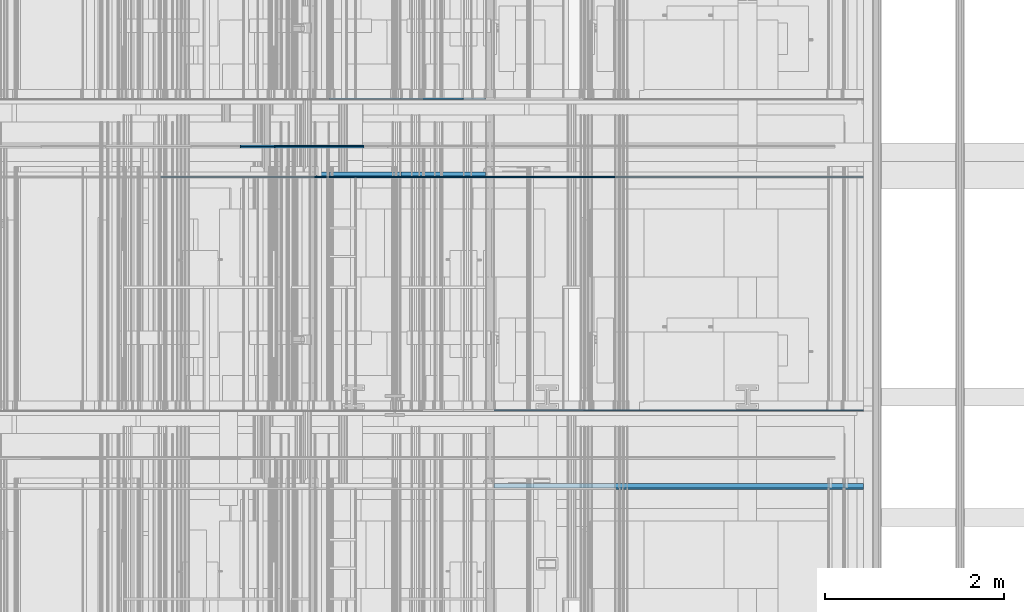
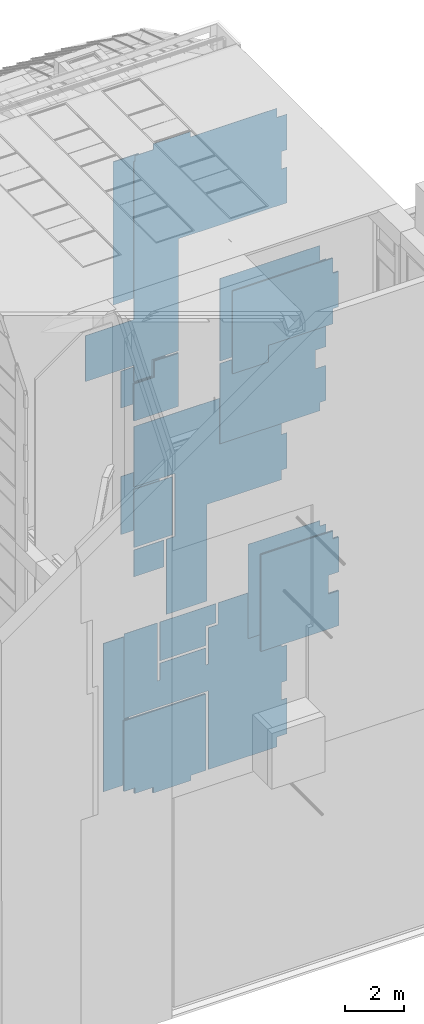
# One storey, part 256 of 583: 22 slabs.
"""IFC2X3 building model written with IfcOpenShell, lengths in metres."""

from ifc_helpers import new_model, entity, si_unit, converted_unit, derived_unit, money_unit, direction, frame, origin_with_axes, place, context, subcontext, project, spatial, faceted_brep, material, type_object, element, save


model = new_model("IFC2X3")

# Units and contexts
model_context = context("Model", 3, precision=1e-05, world=origin_with_axes(), true_north=direction((0.0, 1.0)))
body_context = subcontext(model_context, "Body", "Model", "MODEL_VIEW", scale=1.0)
ifc_project = project(units=[si_unit("LENGTHUNIT", "METRE"), si_unit("AREAUNIT", "SQUARE_METRE"), si_unit("VOLUMEUNIT", "CUBIC_METRE"), si_unit("ABSORBEDDOSEUNIT", "GRAY"), si_unit("AMOUNTOFSUBSTANCEUNIT", "MOLE"), si_unit("DOSEEQUIVALENTUNIT", "SIEVERT"), si_unit("ELECTRICCAPACITANCEUNIT", "FARAD"), si_unit("ELECTRICCHARGEUNIT", "COULOMB"), si_unit("ELECTRICCONDUCTANCEUNIT", "SIEMENS"), si_unit("ELECTRICCURRENTUNIT", "AMPERE"), si_unit("ELECTRICRESISTANCEUNIT", "OHM"), si_unit("ELECTRICVOLTAGEUNIT", "VOLT"), si_unit("ENERGYUNIT", "JOULE"), si_unit("FORCEUNIT", "NEWTON"), si_unit("FREQUENCYUNIT", "HERTZ"), si_unit("ILLUMINANCEUNIT", "LUX"), si_unit("INDUCTANCEUNIT", "HENRY"), si_unit("LUMINOUSFLUXUNIT", "LUMEN"), si_unit("LUMINOUSINTENSITYUNIT", "CANDELA"), si_unit("MAGNETICFLUXDENSITYUNIT", "TESLA"), si_unit("MAGNETICFLUXUNIT", "WEBER"), si_unit("MASSUNIT", "GRAM"), converted_unit("PLANEANGLEUNIT", "degree", entity("IfcReal", 0.0174532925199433), si_unit("PLANEANGLEUNIT", "RADIAN"), dimensions=[0, 0, 0, 0, 0, 0, 0]), si_unit("POWERUNIT", "WATT"), si_unit("PRESSUREUNIT", "PASCAL"), si_unit("RADIOACTIVITYUNIT", "BECQUEREL"), si_unit("SOLIDANGLEUNIT", "STERADIAN"), si_unit("THERMODYNAMICTEMPERATUREUNIT", "KELVIN"), si_unit("TIMEUNIT", "SECOND"), derived_unit("ACCELERATIONUNIT", [(si_unit("LENGTHUNIT", "METRE"), 1), (si_unit("TIMEUNIT", "SECOND"), -2)]), derived_unit("ANGULARVELOCITYUNIT", [(converted_unit("PLANEANGLEUNIT", "degree", entity("IfcReal", 0.0174532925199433), si_unit("PLANEANGLEUNIT", "RADIAN"), dimensions=[0, 0, 0, 0, 0, 0, 0]), 1), (si_unit("TIMEUNIT", "SECOND"), -1)]), derived_unit("CURVATUREUNIT", [(converted_unit("PLANEANGLEUNIT", "degree", entity("IfcReal", 0.0174532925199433), si_unit("PLANEANGLEUNIT", "RADIAN"), dimensions=[0, 0, 0, 0, 0, 0, 0]), 1), (si_unit("LENGTHUNIT", "METRE"), -1)]), derived_unit("DYNAMICVISCOSITYUNIT", [(si_unit("PRESSUREUNIT", "PASCAL"), 1), (si_unit("TIMEUNIT", "SECOND"), 1)]), derived_unit("HEATFLUXDENSITYUNIT", [(si_unit("POWERUNIT", "WATT"), 1), (si_unit("LENGTHUNIT", "METRE"), -2)]), derived_unit("HEATINGVALUEUNIT", [(si_unit("ENERGYUNIT", "JOULE"), 1), (si_unit("MASSUNIT", "GRAM"), -1)]), derived_unit("INTEGERCOUNTRATEUNIT", [(si_unit("TIMEUNIT", "SECOND"), -1)]), derived_unit("IONCONCENTRATIONUNIT", [(si_unit("MASSUNIT", "GRAM"), 1), (si_unit("VOLUMEUNIT", "CUBIC_METRE"), -1)]), derived_unit("ISOTHERMALMOISTURECAPACITYUNIT", [(si_unit("VOLUMEUNIT", "CUBIC_METRE"), 1), (si_unit("MASSUNIT", "GRAM"), -1)]), derived_unit("KINEMATICVISCOSITYUNIT", [(si_unit("AREAUNIT", "SQUARE_METRE"), 1), (si_unit("TIMEUNIT", "SECOND"), -1)]), derived_unit("LINEARFORCEUNIT", [(si_unit("FORCEUNIT", "NEWTON"), 1), (si_unit("LENGTHUNIT", "METRE"), -1)]), derived_unit("LINEARMOMENTUNIT", [(si_unit("FORCEUNIT", "NEWTON"), 1), (si_unit("LENGTHUNIT", "METRE"), -1)]), derived_unit("LINEARSTIFFNESSUNIT", [(si_unit("FORCEUNIT", "NEWTON"), 1), (si_unit("LENGTHUNIT", "METRE"), -1)]), derived_unit("LINEARVELOCITYUNIT", [(si_unit("LENGTHUNIT", "METRE"), 1), (si_unit("TIMEUNIT", "SECOND"), -1)]), derived_unit("LUMINOUSINTENSITYDISTRIBUTIONUNIT", [(si_unit("LUMINOUSINTENSITYUNIT", "CANDELA"), 1), (si_unit("LUMINOUSFLUXUNIT", "LUMEN"), -1)]), derived_unit("MASSDENSITYUNIT", [(si_unit("MASSUNIT", "GRAM"), 1), (si_unit("VOLUMEUNIT", "CUBIC_METRE"), -1)]), derived_unit("MASSFLOWRATEUNIT", [(si_unit("MASSUNIT", "GRAM"), 1), (si_unit("TIMEUNIT", "SECOND"), -1)]), derived_unit("MASSPERLENGTHUNIT", [(si_unit("MASSUNIT", "GRAM"), 1), (si_unit("LENGTHUNIT", "METRE"), -1)]), derived_unit("MODULUSOFELASTICITYUNIT", [(si_unit("FORCEUNIT", "NEWTON"), 1), (si_unit("AREAUNIT", "SQUARE_METRE"), -1)]), derived_unit("MODULUSOFLINEARSUBGRADEREACTIONUNIT", [(si_unit("FORCEUNIT", "NEWTON"), 1), (si_unit("LENGTHUNIT", "METRE"), -2)]), derived_unit("MODULUSOFROTATIONALSUBGRADEREACTIONUNIT", [(si_unit("FORCEUNIT", "NEWTON"), 1), (si_unit("LENGTHUNIT", "METRE"), 1)]), derived_unit("MODULUSOFSUBGRADEREACTIONUNIT", [(si_unit("FORCEUNIT", "NEWTON"), 1), (si_unit("VOLUMEUNIT", "CUBIC_METRE"), -1)]), derived_unit("MOISTUREDIFFUSIVITYUNIT", [(si_unit("VOLUMEUNIT", "CUBIC_METRE"), 1), (si_unit("TIMEUNIT", "SECOND"), -1)]), derived_unit("MOLECULARWEIGHTUNIT", [(si_unit("MASSUNIT", "GRAM"), 1), (si_unit("AMOUNTOFSUBSTANCEUNIT", "MOLE"), -1)]), derived_unit("PLANARFORCEUNIT", [(si_unit("FORCEUNIT", "NEWTON"), 1), (si_unit("LENGTHUNIT", "METRE"), -2)]), derived_unit("ROTATIONALFREQUENCYUNIT", [(si_unit("TIMEUNIT", "SECOND"), -1)]), derived_unit("ROTATIONALMASSUNIT", [(si_unit("MASSUNIT", "GRAM"), 1), (si_unit("LENGTHUNIT", "METRE"), 2)]), derived_unit("ROTATIONALSTIFFNESSUNIT", [(si_unit("FORCEUNIT", "NEWTON"), 1), (si_unit("LENGTHUNIT", "METRE"), 1), (converted_unit("PLANEANGLEUNIT", "degree", entity("IfcReal", 0.0174532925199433), si_unit("PLANEANGLEUNIT", "RADIAN"), dimensions=[0, 0, 0, 0, 0, 0, 0]), -1)]), derived_unit("SECTIONAREAINTEGRALUNIT", [(si_unit("LENGTHUNIT", "METRE"), 5)]), derived_unit("SECTIONMODULUSUNIT", [(si_unit("LENGTHUNIT", "METRE"), 3)]), derived_unit("SHEARMODULUSUNIT", [(si_unit("FORCEUNIT", "NEWTON"), 1), (si_unit("AREAUNIT", "SQUARE_METRE"), -1)]), derived_unit("SOUNDPOWERUNIT", [(si_unit("ENERGYUNIT", "JOULE"), 1), (si_unit("TIMEUNIT", "SECOND"), -1)]), derived_unit("SPECIFICHEATCAPACITYUNIT", [(si_unit("FORCEUNIT", "NEWTON"), 1), (si_unit("MASSUNIT", "GRAM"), -1), (si_unit("THERMODYNAMICTEMPERATUREUNIT", "KELVIN"), -1)]), derived_unit("TEMPERATUREGRADIENTUNIT", [(si_unit("THERMODYNAMICTEMPERATUREUNIT", "KELVIN"), 1), (si_unit("LENGTHUNIT", "METRE"), -1)]), derived_unit("THERMALADMITTANCEUNIT", [(si_unit("POWERUNIT", "WATT"), 1), (si_unit("AREAUNIT", "SQUARE_METRE"), -1), (si_unit("THERMODYNAMICTEMPERATUREUNIT", "KELVIN"), -1)]), derived_unit("THERMALCONDUCTANCEUNIT", [(si_unit("POWERUNIT", "WATT"), 1), (si_unit("LENGTHUNIT", "METRE"), -1), (si_unit("THERMODYNAMICTEMPERATUREUNIT", "KELVIN"), -1)]), derived_unit("THERMALEXPANSIONCOEFFICIENTUNIT", [(si_unit("THERMODYNAMICTEMPERATUREUNIT", "KELVIN"), -1)]), derived_unit("THERMALRESISTANCEUNIT", [(si_unit("AREAUNIT", "SQUARE_METRE"), 1), (si_unit("POWERUNIT", "WATT"), -1)]), derived_unit("THERMALTRANSMITTANCEUNIT", [(si_unit("POWERUNIT", "WATT"), 1), (si_unit("AREAUNIT", "SQUARE_METRE"), -1), (si_unit("THERMODYNAMICTEMPERATUREUNIT", "KELVIN"), -1)]), derived_unit("TORQUEUNIT", [(si_unit("FORCEUNIT", "NEWTON"), 1), (si_unit("LENGTHUNIT", "METRE"), 1)]), derived_unit("VAPORPERMEABILITYUNIT", [(si_unit("MASSUNIT", "GRAM"), 1), (si_unit("TIMEUNIT", "SECOND"), -1)]), derived_unit("VOLUMETRICFLOWRATEUNIT", [(si_unit("VOLUMEUNIT", "CUBIC_METRE"), 1), (si_unit("TIMEUNIT", "SECOND"), -1)]), derived_unit("WARPINGCONSTANTUNIT", [(si_unit("LENGTHUNIT", "METRE"), 6)]), derived_unit("WARPINGMOMENTUNIT", [(si_unit("FORCEUNIT", "NEWTON"), 1), (si_unit("LENGTHUNIT", "METRE"), 2)]), money_unit("GBP")], contexts=[model_context])

# Site, building, storey
site_placement = place(None, origin_with_axes())
site = spatial("IfcSite", under=ifc_project, at=site_placement, Name="Site", CompositionType="ELEMENT")
building_placement = place(site_placement, origin_with_axes())
building = spatial("IfcBuilding", under=site, at=building_placement, Name="Building01", CompositionType="ELEMENT")
storey_placement = place(building_placement, frame((0.0, 0.0, 20.78), z_axis=(0.0, 0.0, 1.0), x_axis=(1.0, 0.0, 0.0)))
storey = spatial("IfcBuildingStorey", under=building, at=storey_placement, Name="RL", CompositionType="ELEMENT", Elevation=20.78)

# Slabs
ifc_material_1 = material(Name="A_BSUK_CeilingSoffitFinishes_Suspended")
slab_type_1 = type_object("IfcSlabType", Name="A-FloorsSlabs A_BSUK_Slabs", PredefinedType="FLOOR")
placement = place(storey_placement, frame((0.0, 0.0, -20.78), z_axis=(0.0, 0.0, 1.0), x_axis=(1.0, 0.0, 0.0)))
element("IfcSlab", 1, at=placement, inside=storey, type_object=slab_type_1, material=ifc_material_1, Name="A-FloorsSlabs A_BSUK_Slabs", ObjectType="CompoundSlabLeaf", context=body_context, shape_type="Brep", body=[
    faceted_brep([(12.013124, 7.765, 7.289669), (12.013124, 7.78, 7.289669), (14.582, 7.78, 7.289669), (14.582, 7.765, 7.289669), (11.763124, 7.765, 7.289669), (11.763124, 7.78, 7.289669), (11.763124, 7.765, 11.28), (11.763124, 7.78, 11.28), (14.582, 7.765, 11.28), (14.582, 7.78, 11.28), (14.582, 7.765, 10.955), (14.582, 7.78, 10.955), (14.8, 7.765, 10.955), (14.8, 7.78, 10.955), (14.8, 7.765, 9.508), (14.8, 7.78, 9.508), (14.402, 7.765, 9.508), (14.402, 7.78, 9.508), (14.402, 7.765, 8.742), (14.402, 7.78, 8.742), (14.8, 7.765, 8.742), (14.8, 7.78, 8.742), (14.8, 7.765, 7.295), (14.8, 7.78, 7.295), (14.582, 7.765, 7.295), (14.582, 7.78, 7.295)], [[[0, 1, 2, 3]], [[4, 5, 1, 0]], [[6, 7, 5, 4]], [[8, 9, 7, 6]], [[10, 11, 9, 8]], [[12, 13, 11, 10]], [[14, 15, 13, 12]], [[16, 17, 15, 14]], [[18, 19, 17, 16]], [[20, 21, 19, 18]], [[22, 23, 21, 20]], [[24, 25, 23, 22]], [[3, 2, 25, 24]], [[1, 5, 7, 9, 11, 13, 15, 17, 19, 21, 23, 25, 2]], [[3, 24, 22, 20, 18, 16, 14, 12, 10, 8, 6, 4, 0]]]),
])
ifc_material_2 = material(Name="A_BSUK_Ceramic_FloorTiles")
element("IfcSlab", 2, at=placement, inside=storey, type_object=slab_type_1, material=ifc_material_2, Name="A-FloorsSlabs A_BSUK_Slabs", ObjectType="CompoundSlabLeaf", context=body_context, shape_type="Brep", body=[
    faceted_brep([(10.32, 12.133, 10.488871), (10.32, 12.145, 10.488871), (10.32, 12.145, 12.893585), (10.32, 12.133, 12.893585), (8.82, 12.133, 10.488871), (8.82, 12.145, 10.488871), (8.82, 12.133, 12.893585), (8.82, 12.145, 12.893585)], [[[0, 1, 2, 3]], [[4, 5, 1, 0]], [[6, 7, 5, 4]], [[3, 2, 7, 6]], [[1, 5, 7, 2]], [[3, 6, 4, 0]]]),
])
element("IfcSlab", 3, at=placement, inside=storey, type_object=slab_type_1, material=ifc_material_2, Name="A-FloorsSlabs A_BSUK_Slabs", ObjectType="CompoundSlabLeaf", context=body_context, shape_type="Brep", body=[
    faceted_brep([(8.82, 12.133, 15.708132), (8.82, 12.145, 15.708132), (10.57, 12.145, 15.708132), (10.57, 12.133, 15.708132), (8.82, 12.133, 17.238132), (8.82, 12.145, 17.238132), (9.62, 12.133, 17.238132), (9.62, 12.145, 17.238132), (9.62, 12.133, 17.905), (9.62, 12.145, 17.905), (10.57, 12.133, 17.905), (10.57, 12.145, 17.905)], [[[0, 1, 2, 3]], [[4, 5, 1, 0]], [[6, 7, 5, 4]], [[8, 9, 7, 6]], [[10, 11, 9, 8]], [[3, 2, 11, 10]], [[1, 5, 7, 9, 11, 2]], [[3, 10, 8, 6, 4, 0]]]),
])
ifc_material_3 = material(Name="A_BSUK_Carpet-Pile")
element("IfcSlab", 4, at=placement, inside=storey, type_object=slab_type_1, material=ifc_material_3, Name="A-FloorsSlabs A_BSUK_Slabs", ObjectType="CompoundSlabLeaf", context=body_context, shape_type="Brep", body=[
    faceted_brep([(11.763124, 8.643, 7.289669), (11.763124, 8.655, 7.289669), (14.582, 8.655, 7.289669), (14.582, 8.643, 7.289669), (11.763124, 8.643, 8.995), (11.763124, 8.655, 8.995), (11.763124, 8.643, 11.18), (11.763124, 8.655, 11.18), (14.582, 8.643, 11.18), (14.582, 8.655, 11.18), (14.582, 8.643, 10.955), (14.582, 8.655, 10.955), (14.8, 8.643, 10.955), (14.8, 8.655, 10.955), (14.8, 8.643, 9.508), (14.8, 8.655, 9.508), (14.402, 8.643, 9.508), (14.402, 8.655, 9.508), (14.402, 8.643, 8.742), (14.402, 8.655, 8.742), (14.8, 8.643, 8.742), (14.8, 8.655, 8.742), (14.8, 8.643, 7.295), (14.8, 8.655, 7.295), (14.582, 8.643, 7.295), (14.582, 8.655, 7.295)], [[[0, 1, 2, 3]], [[4, 5, 1, 0]], [[6, 7, 5, 4]], [[8, 9, 7, 6]], [[10, 11, 9, 8]], [[12, 13, 11, 10]], [[14, 15, 13, 12]], [[16, 17, 15, 14]], [[18, 19, 17, 16]], [[20, 21, 19, 18]], [[22, 23, 21, 20]], [[24, 25, 23, 22]], [[3, 2, 25, 24]], [[1, 5, 7, 9, 11, 13, 15, 17, 19, 21, 23, 25, 2]], [[3, 24, 22, 20, 18, 16, 14, 12, 10, 8, 6, 4, 0]]]),
])
element("IfcSlab", 5, at=placement, inside=storey, type_object=slab_type_1, material=ifc_material_3, Name="A-FloorsSlabs A_BSUK_Slabs", ObjectType="CompoundSlabLeaf", context=body_context, shape_type="Brep", body=[
    faceted_brep([(10.665, 8.643, 15.708132), (10.665, 8.655, 15.708132), (14.582, 8.655, 15.708132), (14.582, 8.643, 15.708132), (10.665, 8.643, 19.025284), (10.665, 8.655, 19.025284), (12.159378, 8.643, 19.025284), (12.159378, 8.655, 19.025284), (12.159378, 8.643, 19.715), (12.159378, 8.655, 19.715), (14.8, 8.643, 19.715), (14.8, 8.655, 19.715), (14.8, 8.643, 18.268), (14.8, 8.655, 18.268), (14.402, 8.643, 18.268), (14.402, 8.655, 18.268), (14.402, 8.643, 17.502), (14.402, 8.655, 17.502), (14.8, 8.643, 17.502), (14.8, 8.655, 17.502), (14.8, 8.643, 16.055), (14.8, 8.655, 16.055), (14.582, 8.643, 16.055), (14.582, 8.655, 16.055)], [[[0, 1, 2, 3]], [[4, 5, 1, 0]], [[6, 7, 5, 4]], [[8, 9, 7, 6]], [[10, 11, 9, 8]], [[12, 13, 11, 10]], [[14, 15, 13, 12]], [[16, 17, 15, 14]], [[18, 19, 17, 16]], [[20, 21, 19, 18]], [[22, 23, 21, 20]], [[3, 2, 23, 22]], [[1, 5, 7, 9, 11, 13, 15, 17, 19, 21, 23, 2]], [[3, 22, 20, 18, 16, 14, 12, 10, 8, 6, 4, 0]]]),
])
element("IfcSlab", 6, at=placement, inside=storey, type_object=slab_type_1, material=ifc_material_3, Name="A-FloorsSlabs A_BSUK_Slabs", ObjectType="CompoundSlabLeaf", context=body_context, shape_type="Brep", body=[
    faceted_brep([(12.064378, 8.643, 19.81), (12.064378, 8.655, 19.81), (14.582, 8.655, 19.81), (14.582, 8.643, 19.81), (12.064378, 8.643, 19.120284), (12.064378, 8.655, 19.120284), (10.665, 8.643, 19.120284), (10.665, 8.655, 19.120284), (10.665, 8.643, 22.53), (10.665, 8.655, 22.53), (14.582, 8.643, 22.53), (14.582, 8.655, 22.53), (14.582, 8.643, 21.905), (14.582, 8.655, 21.905), (14.8, 8.643, 21.905), (14.8, 8.655, 21.905), (14.8, 8.643, 20.435), (14.8, 8.655, 20.435), (14.582, 8.643, 20.435), (14.582, 8.655, 20.435)], [[[0, 1, 2, 3]], [[4, 5, 1, 0]], [[6, 7, 5, 4]], [[8, 9, 7, 6]], [[10, 11, 9, 8]], [[12, 13, 11, 10]], [[14, 15, 13, 12]], [[16, 17, 15, 14]], [[18, 19, 17, 16]], [[3, 2, 19, 18]], [[1, 5, 7, 9, 11, 13, 15, 17, 19, 2]], [[3, 18, 16, 14, 12, 10, 8, 6, 4, 0]]]),
])
element("IfcSlab", 7, at=placement, inside=storey, type_object=slab_type_1, material=ifc_material_1, Name="A-FloorsSlabs A_BSUK_Slabs", ObjectType="CompoundSlabLeaf", context=body_context, shape_type="Brep", body=[
    faceted_brep([(9.73567, 11.255, 4.669669), (9.73567, 11.27, 4.669669), (9.73567, 11.27, 7.064669), (9.73567, 11.255, 7.064669), (9.83067, 11.255, 4.669669), (9.83067, 11.27, 4.669669), (9.83067, 11.255, 5.369669), (9.83067, 11.27, 5.369669), (11.63067, 11.255, 5.369669), (11.63067, 11.27, 5.369669), (11.63067, 11.255, 4.669669), (11.63067, 11.27, 4.669669), (11.72567, 11.255, 4.669669), (11.72567, 11.27, 4.669669), (11.72567, 11.255, 6.169669), (11.72567, 11.27, 6.169669), (12.11067, 11.255, 6.169669), (12.11067, 11.27, 6.169669), (12.11067, 11.255, 7.064669), (12.11067, 11.27, 7.064669), (14.567, 11.255, 7.064669), (14.567, 11.27, 7.064669), (14.567, 11.255, 6.559876), (14.567, 11.27, 6.559876), (14.8, 11.255, 6.559876), (14.8, 11.27, 6.559876), (14.8, 11.255, 5.105), (14.8, 11.27, 5.105), (14.582, 11.255, 5.105), (14.582, 11.27, 5.105), (14.582, 11.255, 4.385), (14.582, 11.27, 4.385), (14.8, 11.255, 4.385), (14.8, 11.27, 4.385), (14.8, 11.255, 2.915), (14.8, 11.27, 2.915), (14.582, 11.255, 2.915), (14.582, 11.27, 2.915), (14.582, 11.255, 2.195), (14.582, 11.27, 2.195), (14.8, 11.255, 2.195), (14.8, 11.27, 2.195), (14.8, 11.255, 0.725), (14.8, 11.27, 0.725), (14.402, 11.255, 0.725), (14.402, 11.27, 0.725), (14.402, 11.255, 0.318), (14.402, 11.27, 0.318), (11.72567, 11.255, 0.318), (11.72567, 11.27, 0.318), (11.72567, 11.255, 3.569669), (11.72567, 11.27, 3.569669), (8.43567, 11.255, 3.569669), (8.43567, 11.27, 3.569669), (8.43567, 11.255, 7.064669), (8.43567, 11.27, 7.064669)], [[[0, 1, 2, 3]], [[4, 5, 1, 0]], [[6, 7, 5, 4]], [[8, 9, 7, 6]], [[10, 11, 9, 8]], [[12, 13, 11, 10]], [[14, 15, 13, 12]], [[16, 17, 15, 14]], [[18, 19, 17, 16]], [[20, 21, 19, 18]], [[22, 23, 21, 20]], [[24, 25, 23, 22]], [[26, 27, 25, 24]], [[28, 29, 27, 26]], [[30, 31, 29, 28]], [[32, 33, 31, 30]], [[34, 35, 33, 32]], [[36, 37, 35, 34]], [[38, 39, 37, 36]], [[40, 41, 39, 38]], [[42, 43, 41, 40]], [[44, 45, 43, 42]], [[46, 47, 45, 44]], [[48, 49, 47, 46]], [[50, 51, 49, 48]], [[52, 53, 51, 50]], [[54, 55, 53, 52]], [[3, 2, 55, 54]], [[1, 5, 7, 9, 11, 13, 15, 17, 19, 21, 23, 25, 27, 29, 31, 33, 35, 37, 39, 41, 43, 45, 47, 49, 51, 53, 55, 2]], [[3, 54, 52, 50, 48, 46, 44, 42, 40, 38, 36, 34, 32, 30, 28, 26, 24, 22, 20, 18, 16, 14, 12, 10, 8, 6, 4, 0]]]),
])
element("IfcSlab", 8, at=placement, inside=storey, type_object=slab_type_1, material=ifc_material_1, Name="A-FloorsSlabs A_BSUK_Slabs", ObjectType="CompoundSlabLeaf", context=body_context, shape_type="Brep", body=[
    faceted_brep([(10.53067, 11.255, 5.464669), (10.53067, 11.27, 5.464669), (11.63067, 11.27, 5.464669), (11.63067, 11.255, 5.464669), (9.83067, 11.255, 5.464669), (9.83067, 11.27, 5.464669), (9.83067, 11.255, 7.064669), (9.83067, 11.27, 7.064669), (12.01567, 11.255, 7.064669), (12.01567, 11.27, 7.064669), (12.01567, 11.255, 6.264669), (12.01567, 11.27, 6.264669), (11.63067, 11.255, 6.264669), (11.63067, 11.27, 6.264669)], [[[0, 1, 2, 3]], [[4, 5, 1, 0]], [[6, 7, 5, 4]], [[8, 9, 7, 6]], [[10, 11, 9, 8]], [[12, 13, 11, 10]], [[3, 2, 13, 12]], [[1, 5, 7, 9, 11, 13, 2]], [[3, 12, 10, 8, 6, 4, 0]]]),
])
element("IfcSlab", 9, at=placement, inside=storey, type_object=slab_type_1, material=ifc_material_1, Name="A-FloorsSlabs A_BSUK_Slabs", ObjectType="CompoundSlabLeaf", context=body_context, shape_type="Brep", body=[
    faceted_brep([(10.415, 11.255, 12.988585), (10.415, 11.27, 12.988585), (10.415, 11.27, 10.393871), (10.415, 11.255, 10.393871), (8.82, 11.255, 12.988585), (8.82, 11.27, 12.988585), (8.82, 11.255, 15.483132), (8.82, 11.27, 15.483132), (14.567, 11.255, 15.483132), (14.567, 11.27, 15.483132), (14.567, 11.255, 15.32), (14.567, 11.27, 15.32), (14.8, 11.255, 15.32), (14.8, 11.27, 15.32), (14.8, 11.255, 13.865), (14.8, 11.27, 13.865), (14.582, 11.255, 13.865), (14.582, 11.27, 13.865), (14.582, 11.255, 13.145), (14.582, 11.27, 13.145), (14.8, 11.255, 13.145), (14.8, 11.27, 13.145), (14.8, 11.255, 11.675), (14.8, 11.27, 11.675), (14.582, 11.255, 11.675), (14.582, 11.27, 11.675), (14.582, 11.255, 11.275), (14.582, 11.27, 11.275), (11.668124, 11.255, 11.275), (11.668124, 11.27, 11.275), (11.668124, 11.255, 10.653), (11.668124, 11.27, 10.653), (11.668124, 11.255, 9.642), (11.668124, 11.27, 9.642), (11.668124, 11.255, 7.289669), (11.668124, 11.27, 7.289669), (10.087704, 11.255, 7.289669), (10.087704, 11.27, 7.289669), (10.087704, 11.255, 10.393871), (10.087704, 11.27, 10.393871)], [[[0, 1, 2, 3]], [[4, 5, 1, 0]], [[6, 7, 5, 4]], [[8, 9, 7, 6]], [[10, 11, 9, 8]], [[12, 13, 11, 10]], [[14, 15, 13, 12]], [[16, 17, 15, 14]], [[18, 19, 17, 16]], [[20, 21, 19, 18]], [[22, 23, 21, 20]], [[24, 25, 23, 22]], [[26, 27, 25, 24]], [[28, 29, 27, 26]], [[30, 31, 29, 28]], [[32, 33, 31, 30]], [[34, 35, 33, 32]], [[36, 37, 35, 34]], [[38, 39, 37, 36]], [[3, 2, 39, 38]], [[1, 5, 7, 9, 11, 13, 15, 17, 19, 21, 23, 25, 27, 29, 31, 33, 35, 37, 39, 2]], [[3, 38, 36, 34, 32, 30, 28, 26, 24, 22, 20, 18, 16, 14, 12, 10, 8, 6, 4, 0]]]),
])
element("IfcSlab", 10, at=placement, inside=storey, type_object=slab_type_1, material=ifc_material_1, Name="A-FloorsSlabs A_BSUK_Slabs", ObjectType="CompoundSlabLeaf", context=body_context, shape_type="Brep", body=[
    faceted_brep([(10.32, 11.255, 10.488871), (10.32, 11.27, 10.488871), (10.32, 11.27, 12.893585), (10.32, 11.255, 12.893585), (8.82, 11.255, 10.488871), (8.82, 11.27, 10.488871), (8.82, 11.255, 12.893585), (8.82, 11.27, 12.893585)], [[[0, 1, 2, 3]], [[4, 5, 1, 0]], [[6, 7, 5, 4]], [[3, 2, 7, 6]], [[1, 5, 7, 2]], [[3, 6, 4, 0]]]),
])
element("IfcSlab", 11, at=placement, inside=storey, type_object=slab_type_1, material=ifc_material_1, Name="A-FloorsSlabs A_BSUK_Slabs", ObjectType="CompoundSlabLeaf", context=body_context, shape_type="Brep", body=[
    faceted_brep([(6.93, 11.255, 18.395), (6.93, 11.27, 18.395), (6.93, 11.27, 18.0), (6.93, 11.255, 18.0), (6.93, 11.255, 19.395), (6.93, 11.27, 19.395), (6.93, 11.255, 19.897661), (6.93, 11.27, 19.897661), (8.82, 11.255, 19.897661), (8.82, 11.27, 19.897661), (8.82, 11.255, 26.417), (8.82, 11.27, 26.417), (8.863, 11.255, 26.417), (8.863, 11.27, 26.417), (8.863, 11.255, 26.647), (8.863, 11.27, 26.647), (9.57718, 11.255, 26.647), (9.57718, 11.27, 26.647), (9.57718, 11.255, 26.88), (9.57718, 11.27, 26.88), (11.03218, 11.255, 26.88), (11.03218, 11.27, 26.88), (11.03218, 11.255, 26.662), (11.03218, 11.27, 26.662), (14.402, 11.255, 26.662), (14.402, 11.27, 26.662), (14.402, 11.255, 26.285), (14.402, 11.27, 26.285), (14.8, 11.255, 26.285), (14.8, 11.27, 26.285), (14.8, 11.255, 24.815), (14.8, 11.27, 24.815), (14.582, 11.255, 24.815), (14.582, 11.27, 24.815), (14.582, 11.255, 24.095), (14.582, 11.27, 24.095), (14.8, 11.255, 24.095), (14.8, 11.27, 24.095), (14.8, 11.255, 22.625), (14.8, 11.27, 22.625), (10.57, 11.255, 22.625), (10.57, 11.27, 22.625), (10.57, 11.255, 19.891284), (10.57, 11.27, 19.891284), (10.57, 11.255, 19.044398), (10.57, 11.27, 19.044398), (10.57, 11.255, 18.0), (10.57, 11.27, 18.0), (9.525, 11.255, 18.0), (9.525, 11.27, 18.0), (9.525, 11.255, 17.333132), (9.525, 11.27, 17.333132), (8.82, 11.255, 17.333132), (8.82, 11.27, 17.333132), (8.82, 11.255, 18.0), (8.82, 11.27, 18.0), (7.82088, 11.255, 18.0), (7.82088, 11.27, 18.0), (7.02888, 11.255, 18.0), (7.02888, 11.27, 18.0)], [[[0, 1, 2, 3]], [[4, 5, 1, 0]], [[6, 7, 5, 4]], [[8, 9, 7, 6]], [[10, 11, 9, 8]], [[12, 13, 11, 10]], [[14, 15, 13, 12]], [[16, 17, 15, 14]], [[18, 19, 17, 16]], [[20, 21, 19, 18]], [[22, 23, 21, 20]], [[24, 25, 23, 22]], [[26, 27, 25, 24]], [[28, 29, 27, 26]], [[30, 31, 29, 28]], [[32, 33, 31, 30]], [[34, 35, 33, 32]], [[36, 37, 35, 34]], [[38, 39, 37, 36]], [[40, 41, 39, 38]], [[42, 43, 41, 40]], [[44, 45, 43, 42]], [[46, 47, 45, 44]], [[48, 49, 47, 46]], [[50, 51, 49, 48]], [[52, 53, 51, 50]], [[54, 55, 53, 52]], [[56, 57, 55, 54]], [[58, 59, 57, 56]], [[3, 2, 59, 58]], [[1, 5, 7, 9, 11, 13, 15, 17, 19, 21, 23, 25, 27, 29, 31, 33, 35, 37, 39, 41, 43, 45, 47, 49, 51, 53, 55, 57, 59, 2]], [[3, 58, 56, 54, 52, 50, 48, 46, 44, 42, 40, 38, 36, 34, 32, 30, 28, 26, 24, 22, 20, 18, 16, 14, 12, 10, 8, 6, 4, 0]]]),
])
element("IfcSlab", 12, at=placement, inside=storey, type_object=slab_type_1, material=ifc_material_1, Name="A-FloorsSlabs A_BSUK_Slabs", ObjectType="CompoundSlabLeaf", context=body_context, shape_type="Brep", body=[
    faceted_brep([(8.82, 11.255, 9.285), (8.82, 11.27, 9.285), (9.992662, 11.27, 9.285), (9.992662, 11.255, 9.285), (8.82, 11.255, 10.393585), (8.82, 11.27, 10.393585), (9.992662, 11.255, 10.393585), (9.992662, 11.27, 10.393585)], [[[0, 1, 2, 3]], [[4, 5, 1, 0]], [[6, 7, 5, 4]], [[3, 2, 7, 6]], [[1, 5, 7, 2]], [[3, 6, 4, 0]]]),
])
element("IfcSlab", 13, at=placement, inside=storey, type_object=slab_type_1, material=ifc_material_1, Name="A-FloorsSlabs A_BSUK_Slabs", ObjectType="CompoundSlabLeaf", context=body_context, shape_type="Brep", body=[
    faceted_brep([(10.57, 11.255, 15.708132), (10.57, 11.27, 15.708132), (10.57, 11.27, 17.905), (10.57, 11.255, 17.905), (8.82, 11.255, 15.708132), (8.82, 11.27, 15.708132), (8.82, 11.255, 17.238132), (8.82, 11.27, 17.238132), (9.62, 11.255, 17.238132), (9.62, 11.27, 17.238132), (9.62, 11.255, 17.905), (9.62, 11.27, 17.905)], [[[0, 1, 2, 3]], [[4, 5, 1, 0]], [[6, 7, 5, 4]], [[8, 9, 7, 6]], [[10, 11, 9, 8]], [[3, 2, 11, 10]], [[1, 5, 7, 9, 11, 2]], [[3, 10, 8, 6, 4, 0]]]),
])
element("IfcSlab", 14, at=placement, inside=storey, type_object=slab_type_1, material=ifc_material_1, Name="A-FloorsSlabs A_BSUK_Slabs", ObjectType="CompoundSlabLeaf", context=body_context, shape_type="Brep", body=[
    faceted_brep([(11.63067, 11.255, 0.318), (11.63067, 11.27, 0.318), (11.63067, 11.27, 3.474669), (11.63067, 11.255, 3.474669), (11.055, 11.255, 0.318), (11.055, 11.27, 0.318), (11.055, 11.255, 0.1), (11.055, 11.27, 0.1), (9.57718, 11.255, 0.1), (9.57718, 11.27, 0.1), (9.57718, 11.255, 0.333), (9.57718, 11.27, 0.333), (8.863, 11.255, 0.333), (8.863, 11.27, 0.333), (8.863, 11.255, 0.563), (8.863, 11.27, 0.563), (8.43567, 11.255, 0.563), (8.43567, 11.27, 0.563), (8.43567, 11.255, 3.474669), (8.43567, 11.27, 3.474669)], [[[0, 1, 2, 3]], [[4, 5, 1, 0]], [[6, 7, 5, 4]], [[8, 9, 7, 6]], [[10, 11, 9, 8]], [[12, 13, 11, 10]], [[14, 15, 13, 12]], [[16, 17, 15, 14]], [[18, 19, 17, 16]], [[3, 2, 19, 18]], [[1, 5, 7, 9, 11, 13, 15, 17, 19, 2]], [[3, 18, 16, 14, 12, 10, 8, 6, 4, 0]]]),
])
element("IfcSlab", 15, at=placement, inside=storey, type_object=slab_type_1, material=ifc_material_1, Name="A-FloorsSlabs A_BSUK_Slabs", ObjectType="CompoundSlabLeaf", context=body_context, shape_type="Brep", body=[
    faceted_brep([(8.2075, 11.605, 20.510161), (8.2075, 11.62, 20.510161), (9.2075, 11.62, 20.510161), (9.2075, 11.605, 20.510161), (8.2075, 11.605, 26.417), (8.2075, 11.62, 26.417), (9.2075, 11.605, 26.417), (9.2075, 11.62, 26.417)], [[[0, 1, 2, 3]], [[4, 5, 1, 0]], [[6, 7, 5, 4]], [[3, 2, 7, 6]], [[1, 5, 7, 2]], [[3, 6, 4, 0]]]),
])
element("IfcSlab", 16, at=placement, inside=storey, type_object=slab_type_1, material=ifc_material_1, Name="A-FloorsSlabs A_BSUK_Slabs", ObjectType="CompoundSlabLeaf", context=body_context, shape_type="Brep", body=[
    faceted_brep([(7.82317, 11.605, 0.563), (7.82317, 11.62, 0.563), (8.82317, 11.62, 0.563), (8.82317, 11.605, 0.563), (7.82317, 11.605, 6.677169), (7.82317, 11.62, 6.677169), (8.82317, 11.605, 6.677169), (8.82317, 11.62, 6.677169)], [[[0, 1, 2, 3]], [[4, 5, 1, 0]], [[6, 7, 5, 4]], [[3, 2, 7, 6]], [[1, 5, 7, 2]], [[3, 6, 4, 0]]]),
])
element("IfcSlab", 17, at=placement, inside=storey, type_object=slab_type_1, material=ifc_material_1, Name="A-FloorsSlabs A_BSUK_Slabs", ObjectType="CompoundSlabLeaf", context=body_context, shape_type="Brep", body=[
    faceted_brep([(8.2075, 11.59, 20.510161), (8.2075, 11.605, 20.510161), (9.2075, 11.605, 20.510161), (9.2075, 11.59, 20.510161), (8.2075, 11.59, 26.417), (8.2075, 11.605, 26.417), (9.2075, 11.59, 26.417), (9.2075, 11.605, 26.417)], [[[0, 1, 2, 3]], [[4, 5, 1, 0]], [[6, 7, 5, 4]], [[3, 2, 7, 6]], [[1, 5, 7, 2]], [[3, 6, 4, 0]]]),
])
element("IfcSlab", 18, at=placement, inside=storey, type_object=slab_type_1, material=ifc_material_1, Name="A-FloorsSlabs A_BSUK_Slabs", ObjectType="CompoundSlabLeaf", context=body_context, shape_type="Brep", body=[
    faceted_brep([(7.82317, 11.59, 0.563), (7.82317, 11.605, 0.563), (8.82317, 11.605, 0.563), (8.82317, 11.59, 0.563), (7.82317, 11.59, 6.677169), (7.82317, 11.605, 6.677169), (8.82317, 11.59, 6.677169), (8.82317, 11.605, 6.677169)], [[[0, 1, 2, 3]], [[4, 5, 1, 0]], [[6, 7, 5, 4]], [[3, 2, 7, 6]], [[1, 5, 7, 2]], [[3, 6, 4, 0]]]),
])
ifc_material_4 = material(Name="A_BSUK_ExpandedPolystyreneBoards")
slab_type_2 = type_object("IfcSlabType", Name="A-FloorsSlabs A_BSUK_ExpandedPolystyreneBoards", PredefinedType="FLOOR")
element("IfcSlab", 19, at=placement, inside=storey, type_object=slab_type_2, material=ifc_material_4, Name="A-FloorsSlabs A_BSUK_ExpandedPolystyreneBoards", ObjectType="CompoundSlabLeaf", context=body_context, shape_type="Brep", body=[
    faceted_brep([(12.013124, 7.78, 7.289669), (12.013124, 7.83, 7.289669), (14.582, 7.83, 7.289669), (14.582, 7.78, 7.289669), (11.763124, 7.78, 7.289669), (11.763124, 7.83, 7.289669), (11.763124, 7.78, 11.28), (11.763124, 7.83, 11.28), (14.582, 7.78, 11.28), (14.582, 7.83, 11.28), (14.582, 7.78, 10.955), (14.582, 7.83, 10.955), (14.8, 7.78, 10.955), (14.8, 7.83, 10.955), (14.8, 7.78, 9.508), (14.8, 7.83, 9.508), (14.402, 7.78, 9.508), (14.402, 7.83, 9.508), (14.402, 7.78, 8.742), (14.402, 7.83, 8.742), (14.8, 7.78, 8.742), (14.8, 7.83, 8.742), (14.8, 7.78, 7.295), (14.8, 7.83, 7.295), (14.582, 7.78, 7.295), (14.582, 7.83, 7.295)], [[[0, 1, 2, 3]], [[4, 5, 1, 0]], [[6, 7, 5, 4]], [[8, 9, 7, 6]], [[10, 11, 9, 8]], [[12, 13, 11, 10]], [[14, 15, 13, 12]], [[16, 17, 15, 14]], [[18, 19, 17, 16]], [[20, 21, 19, 18]], [[22, 23, 21, 20]], [[24, 25, 23, 22]], [[3, 2, 25, 24]], [[1, 5, 7, 9, 11, 13, 15, 17, 19, 21, 23, 25, 2]], [[3, 24, 22, 20, 18, 16, 14, 12, 10, 8, 6, 4, 0]]]),
])
element("IfcSlab", 20, at=placement, inside=storey, type_object=slab_type_2, material=ifc_material_4, Name="A-FloorsSlabs A_BSUK_ExpandedPolystyreneBoards", ObjectType="CompoundSlabLeaf", context=body_context, shape_type="Brep", body=[
    faceted_brep([(12.064378, 7.78, 19.81), (12.064378, 7.83, 19.81), (14.582, 7.83, 19.81), (14.582, 7.78, 19.81), (12.064378, 7.78, 19.120284), (12.064378, 7.83, 19.120284), (10.665, 7.78, 19.120284), (10.665, 7.83, 19.120284), (10.665, 7.78, 22.53), (10.665, 7.83, 22.53), (14.582, 7.78, 22.53), (14.582, 7.83, 22.53), (14.582, 7.78, 21.905), (14.582, 7.83, 21.905), (14.8, 7.78, 21.905), (14.8, 7.83, 21.905), (14.8, 7.78, 20.435), (14.8, 7.83, 20.435), (14.582, 7.78, 20.435), (14.582, 7.83, 20.435)], [[[0, 1, 2, 3]], [[4, 5, 1, 0]], [[6, 7, 5, 4]], [[8, 9, 7, 6]], [[10, 11, 9, 8]], [[12, 13, 11, 10]], [[14, 15, 13, 12]], [[16, 17, 15, 14]], [[18, 19, 17, 16]], [[3, 2, 19, 18]], [[1, 5, 7, 9, 11, 13, 15, 17, 19, 2]], [[3, 18, 16, 14, 12, 10, 8, 6, 4, 0]]]),
])
element("IfcSlab", 21, at=placement, inside=storey, type_object=slab_type_2, material=ifc_material_4, Name="A-FloorsSlabs A_BSUK_ExpandedPolystyreneBoards", ObjectType="CompoundSlabLeaf", context=body_context, shape_type="Brep", body=[
    faceted_brep([(10.57, 11.27, 15.708132), (10.57, 11.32, 15.708132), (10.57, 11.32, 17.905), (10.57, 11.27, 17.905), (8.82, 11.27, 15.708132), (8.82, 11.32, 15.708132), (8.82, 11.27, 17.238132), (8.82, 11.32, 17.238132), (9.62, 11.27, 17.238132), (9.62, 11.32, 17.238132), (9.62, 11.27, 17.905), (9.62, 11.32, 17.905)], [[[0, 1, 2, 3]], [[4, 5, 1, 0]], [[6, 7, 5, 4]], [[8, 9, 7, 6]], [[10, 11, 9, 8]], [[3, 2, 11, 10]], [[1, 5, 7, 9, 11, 2]], [[3, 10, 8, 6, 4, 0]]]),
])
element("IfcSlab", 22, at=placement, inside=storey, type_object=slab_type_2, material=ifc_material_4, Name="A-FloorsSlabs A_BSUK_ExpandedPolystyreneBoards", ObjectType="CompoundSlabLeaf", context=body_context, shape_type="Brep", body=[
    faceted_brep([(11.63067, 11.27, 0.318), (11.63067, 11.32, 0.318), (11.63067, 11.32, 3.474669), (11.63067, 11.27, 3.474669), (11.055, 11.27, 0.318), (11.055, 11.32, 0.318), (11.055, 11.27, 0.1), (11.055, 11.32, 0.1), (9.56218, 11.27, 0.1), (9.56218, 11.32, 0.1), (9.56218, 11.27, 0.318), (9.56218, 11.32, 0.318), (8.848, 11.27, 0.318), (8.848, 11.32, 0.318), (8.848, 11.27, 0.548), (8.848, 11.32, 0.548), (8.43567, 11.27, 0.548), (8.43567, 11.32, 0.548), (8.43567, 11.27, 3.474669), (8.43567, 11.32, 3.474669)], [[[0, 1, 2, 3]], [[4, 5, 1, 0]], [[6, 7, 5, 4]], [[8, 9, 7, 6]], [[10, 11, 9, 8]], [[12, 13, 11, 10]], [[14, 15, 13, 12]], [[16, 17, 15, 14]], [[18, 19, 17, 16]], [[3, 2, 19, 18]], [[1, 5, 7, 9, 11, 13, 15, 17, 19, 2]], [[3, 18, 16, 14, 12, 10, 8, 6, 4, 0]]]),
])

save(model, "model.ifc")
